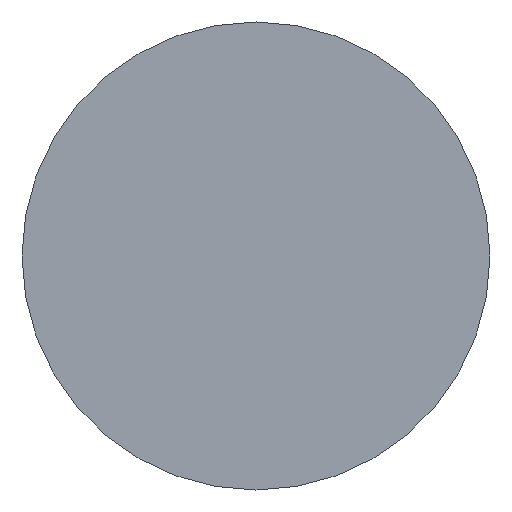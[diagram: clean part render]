
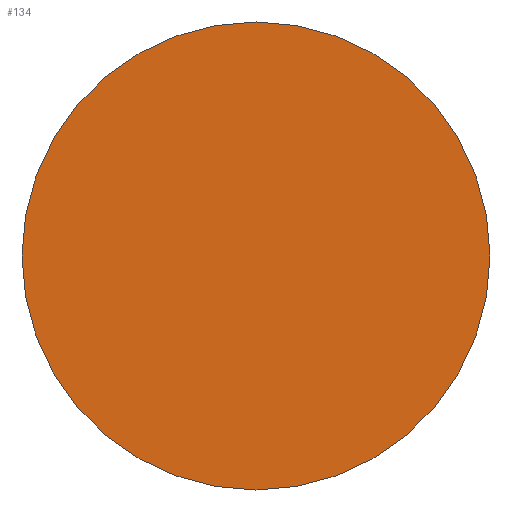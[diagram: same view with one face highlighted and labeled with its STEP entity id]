
A CAD part, left-side view. The second image highlights one B-rep face of the part: STEP entity #134.
In plain terms, the highlighted planar face has unit normal (-1, 0, 0).
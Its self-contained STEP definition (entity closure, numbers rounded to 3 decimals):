
#8 = ORIENTED_EDGE ( 'NONE', *, *, #50, .T. ) ;
#12 = EDGE_LOOP ( 'NONE', ( #8, #29 ) ) ;
#29 = ORIENTED_EDGE ( 'NONE', *, *, #52, .T. ) ;
#35 = CIRCLE ( 'NONE', #61, 5.5 ) ;
#38 = CIRCLE ( 'NONE', #59, 5.5 ) ;
#40 = FACE_OUTER_BOUND ( 'NONE', #12, .T. ) ;
#50 = EDGE_CURVE ( 'NONE', #128, #127, #35, .T. ) ;
#52 = EDGE_CURVE ( 'NONE', #127, #128, #38, .T. ) ;
#59 = AXIS2_PLACEMENT_3D ( 'NONE', #118, #117, #116 ) ;
#61 = AXIS2_PLACEMENT_3D ( 'NONE', #132, #130, #120 ) ;
#67 = AXIS2_PLACEMENT_3D ( 'NONE', #111, #98, #97 ) ;
#97 = DIRECTION ( 'NONE',  ( 0., 0., 1. ) ) ;
#98 = DIRECTION ( 'NONE',  ( -1., 0., 0. ) ) ;
#101 = PLANE ( 'NONE',  #67 ) ;
#107 = CARTESIAN_POINT ( 'NONE',  ( -287., 0., 5.5 ) ) ;
#108 = CARTESIAN_POINT ( 'NONE',  ( -287., 0., -5.5 ) ) ;
#111 = CARTESIAN_POINT ( 'NONE',  ( -287., 0., 0. ) ) ;
#116 = DIRECTION ( 'NONE',  ( 0., 0., 1. ) ) ;
#117 = DIRECTION ( 'NONE',  ( -1., 0., 0. ) ) ;
#118 = CARTESIAN_POINT ( 'NONE',  ( -287., 0., 0. ) ) ;
#120 = DIRECTION ( 'NONE',  ( 0., 0., 1. ) ) ;
#127 = VERTEX_POINT ( 'NONE', #108 ) ;
#128 = VERTEX_POINT ( 'NONE', #107 ) ;
#130 = DIRECTION ( 'NONE',  ( -1., 0., 0. ) ) ;
#132 = CARTESIAN_POINT ( 'NONE',  ( -287., 0., 0. ) ) ;
#134 = ADVANCED_FACE ( 'NONE', ( #40 ), #101, .T. ) ;
